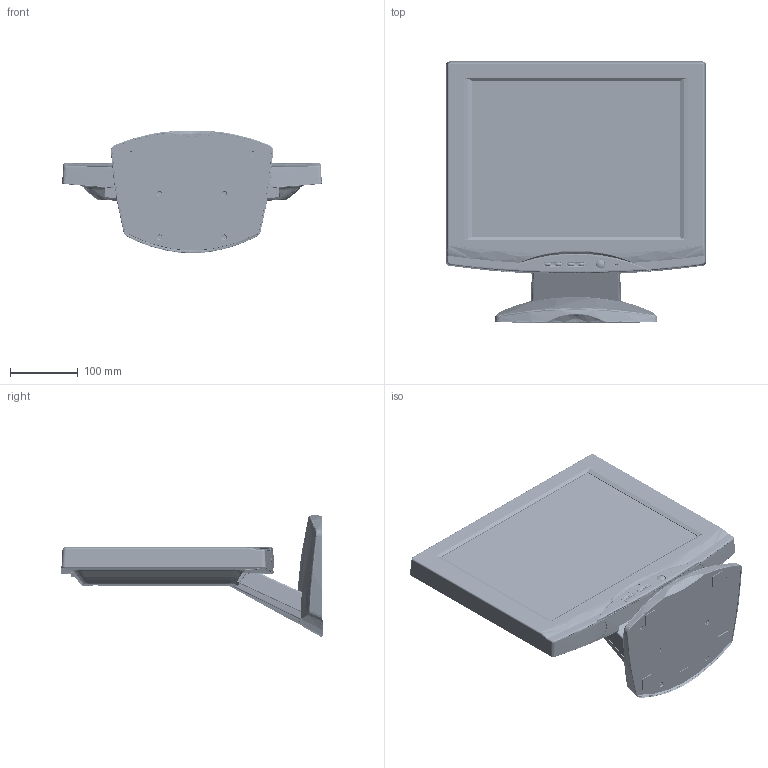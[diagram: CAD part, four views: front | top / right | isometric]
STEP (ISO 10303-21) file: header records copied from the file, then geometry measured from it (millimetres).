
FILE_DESCRIPTION (( 'STEP AP214' ), '1' );
FILE_NAME ('PT1510MX.STEP', '2014-09-25T16:56:25', ( 'IT Admin' ), ( 'Planar Systems, iNC.' ), 'SwSTEP 2.0', 'SolidWorks 2014', '' );
FILE_SCHEMA (( 'AUTOMOTIVE_DESIGN' ));
Length unit declared in the file: millimetre
Products named in the file (74): 11-155F2-20; 85-005AGG075; 80-56902G001_ASM; 85-4A524G060; 11-054F2-401; 41-30321G001; 11-102M1-30; 85-YA123G080; 80-57719-001; 44-58202G002; 43-52102-01; 51-55305-00; 80-57715-001_ASM; 51-58208G002; 80-56902GD01; 61-56908-00_ASM; 11-042M2-002; 52-59901G001; 51-56906-00; 61-56908-SHEFT; IO_PCB_2; 52-57704G006; 51-56907-00; 61-56908-SUPPORT; 85-AA123G040; 52-57704G007; 51-54809-00; 61-56908-10; 61-57703-001; 61-57705-001; 51-55302-00; 52-56101-00; 61-57701G004_ASM; 49-62003G002; 51-55301-00; 61-55302-00; STAND-OFF-M3X3; 61-59104G007_ASM; 70-57720G001_ASM; SF-M3X10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
Assembly tree (150 placements, depth 4):
  PT1510MX
    70-57720G001_ASM
      51-55301-00
      51-55302-00
      51-54809-00
      51-56907-00
      51-56906-00
      80-56902G001_ASM
        80-56902GD01
        43-52102-01  x5
        11-102M1-30
      85-UA123G080  x5
      52-57704G004  x2
      52-57704G005  x2
      61-56005-00
      49-57710G005  x2
      61-57701G004_ASM
        61-57701G004
        STAND_OFF_M5_9  x4
        STAND_OFF_M317_8  x6
        STAND_OFF_M3H6  x4
        SF-M3X10  x2
        STAND-OFF-M3X3  x2
      61-57703-001
      85-AA123G040  x2
      80-57715-001_ASM
        IO_PCB_2
        11-042M2-002
      80-57719G001_ASM
        80-57719-001
        11-054F2-401
        11-155F2-20
        11-049F2-00
      85-1F123G060  x19
      48-64502G001
      61-58207G006
      61-58206G006
      61-59104G007_ASM
        61-59104G007
        STAND_OFF_M3H6-0
        STAND_OFF_M3H6-6
      49-62003G002
      61-57705-001
      52-57704G007  x2
      52-57704G006  x2
      52-59901G001  x5
      51-58208G002
      44-58202G002
      41-30321G001  x2
      85-005AGG075  x2
      42-58202GA02
      42-57724GA02
      51-57708G001
      61-57704G002  x2
      61-57702G002  x2
      61-57706G002  x2
      61-57708G002  x2
      49-57715G002
      85-ZA123-040  x8
    70-55302G003_ASM
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Bounding box: 382.54 x 385.75 x 180.61 mm (x, y, z)
Volume: 1215334.7 mm3; surface area: 2560701.4 mm2
Topology: 130 solids, 366 shells, 11879 faces, 34774 edges, 23678 vertices
Faces by surface type: plane 7860, cylinder 2350, bspline 1399, cone 258, torus 12
Entity records: 413450 total; most frequent: CARTESIAN_POINT 187128, ORIENTED_EDGE 49236, DIRECTION 38820, EDGE_CURVE 26291, VERTEX_POINT 18139, LINE 16056, VECTOR 16056, AXIS2_PLACEMENT_3D 11382
